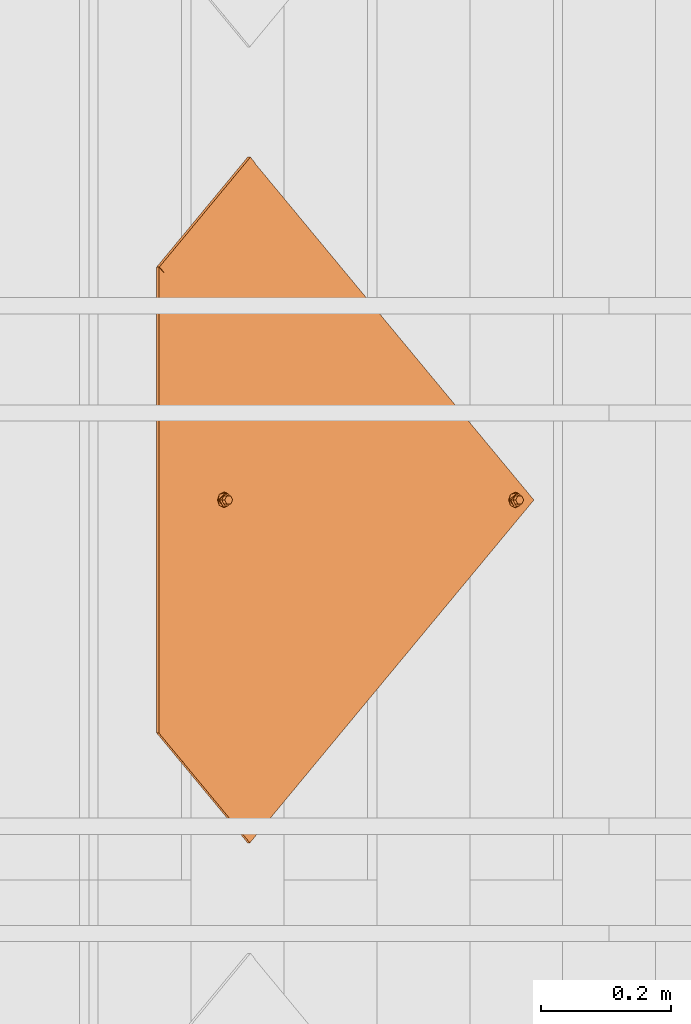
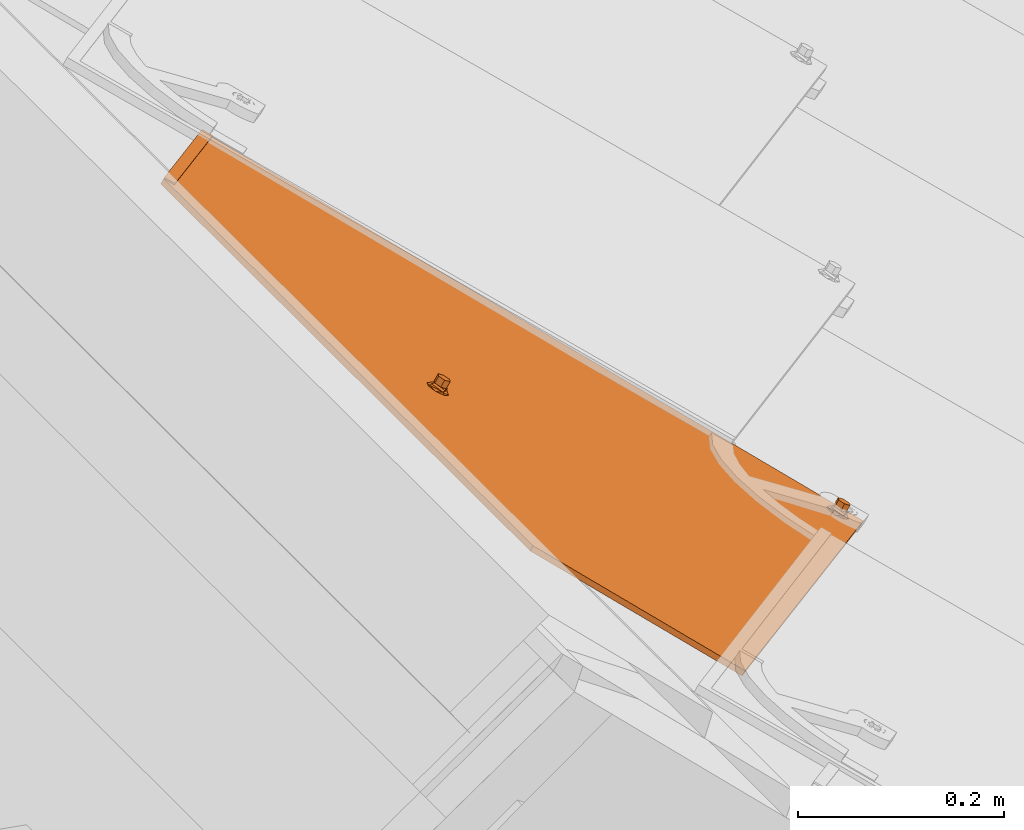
# One storey, part 72 of 151: 1 proxy.
"""IFC2X3 building model written with IfcOpenShell, lengths in millimetres."""

import ifcopenshell
import ifcopenshell.guid

model = None  # the IFC model being written
_history = None  # IfcOwnerHistory: only IFC2X3 demands one
_inside = {}  # id of a spatial element -> (the spatial element, [elements in it])
_under = {}  # id of a project, library or spatial element -> (it, [spatial elements below it])
_declared = {}  # id of a project -> (the project, [libraries it declares])
_typed = {}  # id of a type object -> (the type object, [elements of that type])
_made_of = {}  # id of a material, layer set ... -> (it, [elements and type objects made of it])


def new_model(schema):
    """Start an empty IFC model of exactly this schema.

    Asked for "IFC4X3", IfcOpenShell would pick the latest addendum, in which some entities
    have other attributes; the version numbers below select the first issue.
    IFC2X3 requires an IfcOwnerHistory on every rooted entity: one is made here for all.
    """
    global model, _history
    if schema == "IFC4X3":
        model = ifcopenshell.file(schema_version=(4, 3, 0, 0))
    else:
        model = ifcopenshell.file(schema=schema)
    _inside.clear()
    _under.clear()
    _declared.clear()
    _typed.clear()
    _made_of.clear()
    _history = None
    if model.schema == "IFC2X3":
        org = make("IfcOrganization", Name="unknown")
        user = make(
            "IfcPersonAndOrganization",
            ThePerson=make("IfcPerson", FamilyName="unknown"),
            TheOrganization=org,
        )
        app = make(
            "IfcApplication",
            ApplicationDeveloper=org,
            Version="unknown",
            ApplicationFullName="unknown",
            ApplicationIdentifier="unknown",
        )
        _history = make(
            "IfcOwnerHistory",
            OwningUser=user,
            OwningApplication=app,
            ChangeAction="ADDED",
            CreationDate=0,
        )
    return model


def make(cls, **values):
    """One entity of the class cls with the attributes given. An attribute that is None is left unset."""
    return model.create_entity(
        cls, **{name: value for name, value in values.items() if value is not None}
    )


def entity(cls, *values):
    """Any entity or typed value of the class cls, its attributes in the order of the schema. None: left unset."""
    e = model.create_entity(cls)
    for i, value in enumerate(values):
        if value is not None:
            e[i] = value
    return e


def rooted(cls, **values):
    """An entity with a GlobalId (a new one), such as an element, a storey or a relation."""
    return make(cls, GlobalId=ifcopenshell.guid.new(), OwnerHistory=_history, **values)


def si_unit(unit_type, name, prefix=None):
    """IfcSIUnit, for example si_unit("LENGTHUNIT", "METRE", prefix="MILLI")."""
    return make("IfcSIUnit", UnitType=unit_type, Prefix=prefix, Name=name)


def converted_unit(unit_type, name, factor, base, dimensions=None, offset=None):
    """IfcConversionBasedUnit, such as the inch: factor (a typed value) times the base unit."""
    return make(
        "IfcConversionBasedUnit"
        if offset is None
        else "IfcConversionBasedUnitWithOffset",
        ConversionOffset=offset,
        Dimensions=None
        if dimensions is None
        else entity("IfcDimensionalExponents", *dimensions),
        UnitType=unit_type,
        Name=name,
        ConversionFactor=make(
            "IfcMeasureWithUnit", ValueComponent=factor, UnitComponent=base
        ),
    )


def derived_unit(unit_type, elements):
    """IfcDerivedUnit: a product of units, each with its exponent."""
    return make(
        "IfcDerivedUnit",
        Elements=[
            make("IfcDerivedUnitElement", Unit=unit, Exponent=power)
            for unit, power in elements
        ],
        UnitType=unit_type,
    )


def assignment(units):
    """IfcUnitAssignment: the units of a project."""
    return None if units is None else make("IfcUnitAssignment", Units=units)


def point(xyz):
    """IfcCartesianPoint."""
    return None if xyz is None else make("IfcCartesianPoint", Coordinates=xyz)


def direction(xyz):
    """IfcDirection."""
    return None if xyz is None else make("IfcDirection", DirectionRatios=xyz)


def frame(location, z_axis=None, x_axis=None):
    """IfcAxis2Placement3D, a coordinate frame: its origin and axes. An axis left out is left unset."""
    return make(
        "IfcAxis2Placement3D",
        Location=point(location),
        Axis=direction(z_axis),
        RefDirection=direction(x_axis),
    )


def origin():
    """The frame at (0, 0, 0) with its axes left unset."""
    return frame((0.0, 0.0, 0.0))


def place(relative_to, where):
    """IfcLocalPlacement: puts the frame where relative to a parent placement (None: the world)."""
    return make(
        "IfcLocalPlacement", PlacementRelTo=relative_to, RelativePlacement=where
    )


def context(
    kind, dimensions, precision=None, world=None, true_north=None, identifier=None
):
    """IfcGeometricRepresentationContext, for example the 3D "Model" context."""
    return make(
        "IfcGeometricRepresentationContext",
        ContextIdentifier=identifier,
        ContextType=kind,
        CoordinateSpaceDimension=dimensions,
        Precision=precision,
        WorldCoordinateSystem=world,
        TrueNorth=true_north,
    )


def subcontext(parent, identifier, kind, view, scale=None):
    """IfcGeometricRepresentationSubContext, for example "Body" below "Model"."""
    return make(
        "IfcGeometricRepresentationSubContext",
        ContextIdentifier=identifier,
        ContextType=kind,
        ParentContext=parent,
        TargetScale=scale,
        TargetView=view,
    )


def project(units=None, contexts=None):
    """IfcProject with its units and contexts."""
    return rooted(
        "IfcProject",
        Name="project",
        RepresentationContexts=contexts,
        UnitsInContext=assignment(units),
    )


def spatial(cls, under=None, at=None, **own):
    """A site, building, storey or space (cls), placed at a placement, below another one or the project."""
    s = rooted(cls, ObjectPlacement=at, **own)
    if under is not None:
        _under.setdefault(under.id(), (under, []))[1].append(s)
    return s


def faces_of(points, faces, orient=None, outer=None):
    """IfcFace entities. A face is a list of loops; a loop is a list of indices into points, from 0.

    orient and outer hold one flag for each loop. By default every Orientation is true, the
    first loop of a face is its IfcFaceOuterBound and the others are IfcFaceBound.
    """
    made = []
    for i, loops in enumerate(faces):
        bounds = []
        for j, loop in enumerate(loops):
            is_outer = j == 0 if outer is None else outer[i][j]
            bounds.append(
                make(
                    "IfcFaceOuterBound" if is_outer else "IfcFaceBound",
                    Bound=make("IfcPolyLoop", Polygon=[points[k] for k in loop]),
                    Orientation=True if orient is None else orient[i][j],
                )
            )
        made.append(make("IfcFace", Bounds=bounds))
    return made


def faceted_brep(points, faces, orient=None, outer=None, voids=None):
    """IfcFacetedBrep: a solid bounded by flat faces; with voids (closed shells), ...WithVoids."""
    shared = [point(p) for p in points]
    hull = make("IfcClosedShell", CfsFaces=faces_of(shared, faces, orient, outer))
    if voids is None:
        return make("IfcFacetedBrep", Outer=hull)
    return make(
        "IfcFacetedBrepWithVoids",
        Outer=hull,
        Voids=[
            make(cls, CfsFaces=faces_of(shared, fs, o, b)) for cls, fs, o, b in voids
        ],
    )


def shape(context_of_items, identifier, shape_type, items):
    """IfcShapeRepresentation: the items that make up one representation, for example the "Body"."""
    return make(
        "IfcShapeRepresentation",
        ContextOfItems=context_of_items,
        RepresentationIdentifier=identifier,
        RepresentationType=shape_type,
        Items=items,
    )


def source(mapping_origin, context_of_items, identifier, shape_type, items):
    """IfcRepresentationMap: a shape defined once, which mapped items show again and again."""
    return make(
        "IfcRepresentationMap",
        MappingOrigin=mapping_origin,
        MappedRepresentation=shape(context_of_items, identifier, shape_type, items),
    )


def transform(
    local_origin,
    x_axis=None,
    y_axis=None,
    z_axis=None,
    scale=None,
    scale2=None,
    scale3=None,
    uniform=True,
):
    """IfcCartesianTransformationOperator3D, or its non-uniform kind. x_axis, y_axis, z_axis: its Axis1, 2, 3."""
    if uniform:
        return make(
            "IfcCartesianTransformationOperator3D",
            Axis1=direction(x_axis),
            Axis2=direction(y_axis),
            LocalOrigin=point(local_origin),
            Scale=scale,
            Axis3=direction(z_axis),
        )
    return make(
        "IfcCartesianTransformationOperator3DnonUniform",
        Axis1=direction(x_axis),
        Axis2=direction(y_axis),
        LocalOrigin=point(local_origin),
        Scale=scale,
        Axis3=direction(z_axis),
        Scale2=scale2,
        Scale3=scale3,
    )


def mapped(mapping_source, mapping_target):
    """IfcMappedItem: shows the shape of a source again, moved by a transform."""
    return make(
        "IfcMappedItem", MappingSource=mapping_source, MappingTarget=mapping_target
    )


def material(Name=None, Category=None):
    """IfcMaterial."""
    return make("IfcMaterial", Name=Name, Category=Category)


def material_list(materials):
    """IfcMaterialList."""
    return make("IfcMaterialList", Materials=materials)


def made_of(thing, what):
    """Note that an element or type object is made of a material, layer set ...; save() writes the relation."""
    if what is not None:
        _made_of.setdefault(what.id(), (what, []))[1].append(thing)
    return thing


def type_object(cls, material=None, **own):
    """A type object (cls), such as IfcWallType, which elements share."""
    return made_of(rooted(cls, **own), material)


def type_shapes(of_type, sources):
    """Give a type object the sources (RepresentationMaps) that its elements show as mapped items."""
    of_type.RepresentationMaps = sources


def element(
    cls,
    number,
    at=None,
    inside=None,
    cuts=None,
    type_object=None,
    material=None,
    context=None,
    identifier="Body",
    shape_type=None,
    held_by="IfcProductDefinitionShape",
    body=None,
    shapes=None,
    **own,
):
    """One element of the class cls, such as IfcWall. Its Tag is "e" and its number.

    at: its placement. inside: the storey or other place that contains it. cuts: it is an
    opening in that element (IfcRelVoidsElement). A single representation is given by context,
    identifier, shape_type and body (its items); several are given by shapes. held_by: the class
    of the entity that holds the representations. save() writes the other relations.
    """
    e = rooted(cls, Tag="e%d" % number, ObjectPlacement=at, **own)
    if body is not None:
        shapes = [shape(context, identifier, shape_type, body)]
    if shapes is not None:
        e.Representation = make(held_by, Representations=shapes)
    if inside is not None:
        _inside.setdefault(inside.id(), (inside, []))[1].append(e)
    if cuts is not None:
        rooted(
            "IfcRelVoidsElement", RelatingBuildingElement=cuts, RelatedOpeningElement=e
        )
    if type_object is not None:
        _typed.setdefault(type_object.id(), (type_object, []))[1].append(e)
    return made_of(e, material)


def aggregate(whole, parts):
    """IfcRelAggregates: a whole, such as a stair, and the parts it consists of."""
    return rooted("IfcRelAggregates", RelatingObject=whole, RelatedObjects=parts)


def save(model, path):
    """Write the relations noted so far, then the file.

    IfcRelAggregates (storeys below a building ...), IfcRelContainedInSpatialStructure (elements
    in a storey), IfcRelDefinesByType, IfcRelAssociatesMaterial and IfcRelDeclares: one each for
    every whole, place, type object, material and project.
    """
    for whole, parts in _under.values():
        aggregate(whole, parts)
    for where, things in _inside.values():
        rooted(
            "IfcRelContainedInSpatialStructure",
            RelatedElements=things,
            RelatingStructure=where,
        )
    for kind, things in _typed.values():
        rooted("IfcRelDefinesByType", RelatedObjects=things, RelatingType=kind)
    for what, things in _made_of.values():
        rooted("IfcRelAssociatesMaterial", RelatedObjects=things, RelatingMaterial=what)
    for by, libraries in _declared.values():
        rooted("IfcRelDeclares", RelatingContext=by, RelatedDefinitions=libraries)
    model.write(path)


model = new_model("IFC2X3")

# Units and contexts
model_context = context("Model", 3, precision=0.01, world=origin(), true_north=direction((6.12303176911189e-17, 1.0)))
body_context = subcontext(model_context, "Body", "Model", "MODEL_VIEW")
ifc_project = project(units=[si_unit("LENGTHUNIT", "METRE", prefix="MILLI"), si_unit("AREAUNIT", "SQUARE_METRE"), si_unit("VOLUMEUNIT", "CUBIC_METRE"), converted_unit("PLANEANGLEUNIT", "DEGREE", entity("IfcRatioMeasure", 0.0174532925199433), si_unit("PLANEANGLEUNIT", "RADIAN"), dimensions=[0, 0, 0, 0, 0, 0, 0]), si_unit("MASSUNIT", "GRAM", prefix="KILO"), derived_unit("MASSDENSITYUNIT", [(si_unit("MASSUNIT", "GRAM", prefix="KILO"), 1), (si_unit("LENGTHUNIT", "METRE"), -3)]), si_unit("TIMEUNIT", "SECOND"), si_unit("FREQUENCYUNIT", "HERTZ"), si_unit("THERMODYNAMICTEMPERATUREUNIT", "DEGREE_CELSIUS"), derived_unit("THERMALTRANSMITTANCEUNIT", [(si_unit("MASSUNIT", "GRAM", prefix="KILO"), 1), (si_unit("THERMODYNAMICTEMPERATUREUNIT", "KELVIN"), -1), (si_unit("TIMEUNIT", "SECOND"), -3)]), derived_unit("VOLUMETRICFLOWRATEUNIT", [(si_unit("LENGTHUNIT", "METRE"), 3), (si_unit("TIMEUNIT", "SECOND"), -1)]), si_unit("ELECTRICCURRENTUNIT", "AMPERE"), si_unit("ELECTRICVOLTAGEUNIT", "VOLT"), si_unit("POWERUNIT", "WATT"), si_unit("FORCEUNIT", "NEWTON", prefix="KILO"), si_unit("ILLUMINANCEUNIT", "LUX"), si_unit("LUMINOUSFLUXUNIT", "LUMEN"), si_unit("LUMINOUSINTENSITYUNIT", "CANDELA"), derived_unit("USERDEFINED", [(si_unit("MASSUNIT", "GRAM", prefix="KILO"), -1), (si_unit("LENGTHUNIT", "METRE"), -2), (si_unit("TIMEUNIT", "SECOND"), 3), (si_unit("LUMINOUSFLUXUNIT", "LUMEN"), 1)]), derived_unit("LINEARVELOCITYUNIT", [(si_unit("LENGTHUNIT", "METRE"), 1), (si_unit("TIMEUNIT", "SECOND"), -1)]), si_unit("PRESSUREUNIT", "PASCAL"), derived_unit("USERDEFINED", [(si_unit("LENGTHUNIT", "METRE"), -2), (si_unit("MASSUNIT", "GRAM", prefix="KILO"), 1), (si_unit("TIMEUNIT", "SECOND"), -2)])], contexts=[model_context])

# Site, building, storey
site_placement = place(None, origin())
site = spatial("IfcSite", under=ifc_project, at=site_placement, Name="Default", CompositionType="ELEMENT")
building_placement = place(site_placement, origin())
building = spatial("IfcBuilding", under=site, at=building_placement, CompositionType="ELEMENT")
storey_placement = place(building_placement, origin())
storey = spatial("IfcBuildingStorey", under=building, at=storey_placement, Name="Level 1", CompositionType="ELEMENT", Elevation=0.0)

# Proxy
ifc_material_1 = material(Name="Rubber - Sunstyle - Black")
ifc_material_2 = material(Name="Glass - Sunstyle - Tainted Black")
ifc_material_list_1 = material_list([ifc_material_1, ifc_material_2])
ifc_material_list_2 = material_list([ifc_material_1, ifc_material_2])
building_element_proxy_type = type_object("IfcBuildingElementProxyType", Name="Shingle Top - Black", PredefinedType="NOTDEFINED", material=ifc_material_list_2)
shared_shape = source(origin(), body_context, "Body", "Brep", [
    faceted_brep([(-518.396436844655, -96.9865733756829, 16.4476231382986), (-518.396436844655, -96.9614556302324, 17.9474128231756), (-526.881123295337, -88.4767691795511, 17.8053154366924), (-526.881123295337, -88.5018869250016, 16.3055257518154), (-376.996804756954, 61.3404039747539, 13.7960402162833), (-368.512118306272, 52.8557175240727, 13.9381376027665), (-376.996804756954, 61.3655217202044, 15.2958299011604), (-368.512118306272, 52.8808352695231, 15.4379272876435)], [[[0, 1, 2, 3]], [[0, 3, 4, 5]], [[3, 2, 6, 4]], [[2, 1, 7, 6]], [[1, 0, 5, 7]], [[5, 4, 6, 7]]]),
    faceted_brep([(0.166366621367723, -33.6374645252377, -4.47296585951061), (-5.6078362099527, -36.9707346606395, -4.4171418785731), (-5.60783620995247, -36.6024255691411, 17.5747274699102), (0.166366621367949, -33.2691554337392, 17.5189034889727), (-5.60783620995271, -43.6372749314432, -4.30549391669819), (-5.60783620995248, -43.2689658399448, 17.6863754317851), (0.166366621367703, -46.9705450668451, -4.24966993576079), (0.166366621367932, -46.6022359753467, 17.7421994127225), (5.94056945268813, -43.6372749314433, -4.30549391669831), (5.94056945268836, -43.2689658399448, 17.686375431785), (5.94056945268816, -36.9707346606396, -4.41714187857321), (5.94056945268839, -36.6024255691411, 17.5747274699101), (-8.43733754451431, -48.5381935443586, 17.774621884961), (0.16636662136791, -52.1014648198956, 17.8342978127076), (-12.0011084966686, -39.9356957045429, 17.6305514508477), (-8.43733754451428, -31.3331978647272, 17.4864810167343), (0.166366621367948, -27.7699265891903, 17.4268050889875), (8.77007078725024, -31.3331978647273, 17.4864810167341), (12.3338417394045, -39.935695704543, 17.6305514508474), (8.77007078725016, -48.5381935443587, 17.7746218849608), (-11.1578780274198, -37.6406185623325, 19.9433933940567), (-9.59010793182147, -39.8646808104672, 21.8708760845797), (0.166366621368, -32.5516055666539, 22.5035764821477), (0.166366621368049, -31.3111079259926, 21.9232298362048), (0.166366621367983, -29.1535570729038, 20.9138547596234), (0.166366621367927, -51.5454208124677, 19.1093557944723), (0.166366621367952, -50.6018442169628, 21.273060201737), (0.166366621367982, -47.1524685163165, 22.7481046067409), (0.166366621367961, -28.2829626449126, 18.7197675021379), (-6.15687907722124, -43.5022527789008, 22.6869725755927), (-6.15687907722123, -36.2018213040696, 22.5647085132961), (11.4906112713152, -42.1520387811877, 20.0189484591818), (10.0152467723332, -40.9390872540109, 21.7920079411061), (6.48961231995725, -36.2018213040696, 22.564708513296), (6.48961231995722, -43.5022527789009, 22.6869725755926), (-6.15687907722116, -43.3682243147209, 30.68986075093), (0.166366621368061, -47.0184400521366, 30.7509927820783), (0.166366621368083, -39.7180085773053, 30.6287287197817), (-6.15687907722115, -36.0677928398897, 30.5675966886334), (6.48961231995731, -43.368224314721, 30.6898607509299), (6.48961231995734, -36.0677928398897, 30.5675966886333), (0.166366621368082, -32.417577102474, 30.5064646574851), (0.166366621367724, -40.3040047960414, -4.36131789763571)], [[[0, 1, 2, 3]], [[1, 4, 5, 2]], [[4, 6, 7, 5]], [[6, 8, 9, 7]], [[8, 10, 11, 9]], [[10, 0, 3, 11]], [[12, 7, 13]], [[7, 12, 5]], [[14, 5, 12]], [[5, 14, 2]], [[15, 2, 14]], [[3, 2, 15]], [[15, 16, 3]], [[16, 17, 3]], [[11, 3, 17]], [[11, 17, 18]], [[9, 11, 18]], [[18, 19, 9]], [[7, 9, 19]], [[19, 13, 7]], [[20, 14, 12]], [[21, 22, 23, 24]], [[24, 20, 21]], [[25, 20, 12]], [[26, 27, 21]], [[15, 14, 20]], [[12, 13, 25]], [[20, 28, 15]], [[28, 20, 24]], [[21, 27, 29]], [[21, 29, 30]], [[26, 21, 20]], [[20, 25, 26]], [[15, 28, 16]], [[21, 30, 22]], [[31, 18, 17]], [[28, 31, 17]], [[32, 27, 26]], [[26, 31, 32]], [[26, 25, 31]], [[25, 19, 31]], [[17, 16, 28]], [[31, 19, 18]], [[24, 31, 28]], [[33, 34, 32]], [[23, 22, 33]], [[24, 32, 31]], [[27, 32, 34]], [[32, 23, 33]], [[19, 25, 13]], [[32, 24, 23]], [[35, 36, 37]], [[37, 38, 35]], [[36, 39, 37]], [[40, 37, 39]], [[37, 40, 41]], [[37, 41, 38]], [[42, 6, 4]], [[4, 1, 42]], [[1, 0, 42]], [[42, 8, 6]], [[0, 10, 42]], [[8, 42, 10]], [[22, 30, 38, 41]], [[30, 29, 35, 38]], [[29, 27, 36, 35]], [[27, 34, 39, 36]], [[34, 33, 40, 39]], [[33, 22, 41, 40]]]),
    faceted_brep([(0.0, -573.927138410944, 4.00636906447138), (-5.77420283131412, -577.260408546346, 4.0621930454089), (-5.77420283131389, -576.892099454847, 26.0540623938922), (0.0, -573.558829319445, 25.9982384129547), (-5.77420283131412, -583.926948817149, 4.1738410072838), (-5.7742028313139, -583.558639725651, 26.1657103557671), (0.0, -587.260218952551, 4.2296649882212), (0.0, -586.891909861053, 26.2215343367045), (5.77420283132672, -583.926948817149, 4.17384100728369), (5.77420283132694, -583.558639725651, 26.165710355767), (5.77420283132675, -577.260408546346, 4.06219304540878), (5.77420283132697, -576.892099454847, 26.0540623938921), (-8.60370416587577, -588.827867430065, 26.253956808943), (0.0, -592.391138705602, 26.3136327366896), (-12.1674751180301, -580.225369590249, 26.1098863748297), (-8.60370416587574, -571.622871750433, 25.9658159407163), (0.0, -568.059600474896, 25.9061400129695), (8.60370416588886, -571.622871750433, 25.9658159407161), (12.1674751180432, -580.225369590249, 26.1098863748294), (8.60370416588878, -588.827867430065, 26.2539568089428), (-11.3242446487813, -577.930292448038, 28.4227283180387), (-9.75647455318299, -580.154354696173, 30.3502110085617), (0.0, -572.84127945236, 30.9829114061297), (0.0, -571.600781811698, 30.4025647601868), (0.0, -569.44323095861, 29.3931896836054), (0.0, -591.835094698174, 27.5886907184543), (0.0, -590.891518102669, 29.752395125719), (0.0, -587.442142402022, 31.227439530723), (0.0, -568.572636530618, 27.1991024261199), (-6.32324569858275, -583.791926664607, 31.1663074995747), (-6.32324569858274, -576.491495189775, 31.0440434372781), (11.3242446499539, -582.441712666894, 28.4982833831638), (9.84888015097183, -581.228761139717, 30.2713428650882), (6.32324569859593, -576.491495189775, 31.044043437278), (6.32324569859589, -583.791926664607, 31.1663074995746), (-6.32324569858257, -583.657898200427, 39.169195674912), (0.0, -587.308113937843, 39.2303277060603), (0.0, -580.007682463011, 39.1080636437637), (-6.32324569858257, -576.357466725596, 39.0469316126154), (6.32324569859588, -583.657898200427, 39.1691956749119), (6.32324569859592, -576.357466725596, 39.0469316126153), (0.0, -572.70725098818, 38.9857995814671), (0.0, -580.593678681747, 4.11801702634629)], [[[0, 1, 2, 3]], [[1, 4, 5, 2]], [[4, 6, 7, 5]], [[6, 8, 9, 7]], [[8, 10, 11, 9]], [[10, 0, 3, 11]], [[12, 7, 13]], [[7, 12, 5]], [[14, 5, 12]], [[5, 14, 2]], [[15, 2, 14]], [[3, 2, 15]], [[15, 16, 3]], [[16, 17, 3]], [[11, 3, 17]], [[11, 17, 18]], [[9, 11, 18]], [[18, 19, 9]], [[7, 9, 19]], [[19, 13, 7]], [[20, 14, 12]], [[21, 22, 23, 24]], [[24, 20, 21]], [[25, 20, 12]], [[26, 27, 21]], [[15, 14, 20]], [[12, 13, 25]], [[20, 28, 15]], [[28, 20, 24]], [[21, 27, 29]], [[21, 29, 30]], [[26, 21, 20]], [[20, 25, 26]], [[15, 28, 16]], [[21, 30, 22]], [[31, 18, 17]], [[28, 31, 17]], [[32, 27, 26]], [[26, 31, 32]], [[26, 25, 31]], [[25, 19, 31]], [[17, 16, 28]], [[31, 19, 18]], [[24, 31, 28]], [[33, 34, 32]], [[23, 22, 33]], [[24, 32, 31]], [[27, 32, 34]], [[32, 23, 33]], [[19, 25, 13]], [[32, 24, 23]], [[35, 36, 37]], [[37, 38, 35]], [[36, 39, 37]], [[40, 37, 39]], [[37, 40, 41]], [[37, 41, 38]], [[42, 6, 4]], [[4, 1, 42]], [[1, 0, 42]], [[42, 8, 6]], [[0, 10, 42]], [[8, 42, 10]], [[22, 30, 38, 41]], [[30, 29, 35, 38]], [[29, 27, 36, 35]], [[27, 34, 39, 36]], [[34, 33, 40, 39]], [[33, 22, 41, 40]]]),
    faceted_brep([(518.482751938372, -96.8754983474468, 17.9260478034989), (526.967438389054, -88.3908118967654, 17.7839504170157), (526.967438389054, -88.3656941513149, 19.2837401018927), (518.482751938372, -96.8503806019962, 19.4258374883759), (349.749400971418, 71.8105397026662, 15.1009763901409), (358.234087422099, 80.2952261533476, 14.9588790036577), (358.234087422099, 80.3203438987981, 16.4586686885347), (349.749400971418, 71.8356574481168, 16.6007660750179)], [[[0, 1, 2, 3]], [[1, 0, 4, 5]], [[2, 1, 5, 6]], [[3, 2, 6, 7]], [[0, 3, 7, 4]], [[4, 7, 6, 5]]]),
    faceted_brep([(358.234087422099, 80.2952261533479, 14.9588790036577), (6.94661128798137, -35.8890860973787, 16.9046771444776), (7.74581466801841, -37.8182632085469, 16.9369860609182), (5.67526230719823, -34.2324641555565, 16.8769328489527), (8.01840805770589, -39.8885252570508, 16.9716577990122), (7.74581466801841, -41.9587873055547, 17.0063295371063), (6.94661128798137, -43.8879644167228, 17.0386384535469), (526.967438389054, -88.3908118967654, 17.7839504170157), (4.01840805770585, -32.9612934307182, 16.855643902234), (2.08896041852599, -32.1622021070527, 16.8422611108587), (0.0184080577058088, -31.8896469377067, 16.8376964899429), (-358.233442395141, 80.2952261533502, 14.9588790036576), (-2.05214430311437, -32.1622021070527, 16.8422611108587), (-3.98159194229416, -32.9612934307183, 16.855643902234), (-5.63844619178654, -34.2324641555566, 16.8769328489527), (-6.90979517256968, -35.8890860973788, 16.9046771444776), (-7.70899855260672, -37.8182632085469, 16.9369860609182), (-7.98159194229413, -39.8885252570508, 16.9716577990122), (-7.70899855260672, -41.9587873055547, 17.0063295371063), (-6.90979517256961, -43.8879644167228, 17.0386384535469), (-526.966793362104, -88.390811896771, 17.7839504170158), (-5.63844619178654, -45.544586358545, 17.0663827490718), (-5.6568542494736, -574.226981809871, 25.9204974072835), (-6.92820323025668, -575.883603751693, 25.9482417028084), (-7.72740661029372, -577.812780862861, 25.980550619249), (-8.0, -579.883042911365, 26.015222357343), (-7.72740661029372, -581.953304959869, 26.049894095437), (0.000322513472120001, -615.210165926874, 26.6068637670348), (7.72740661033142, -581.953304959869, 26.049894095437), (6.92820323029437, -583.882482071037, 26.0822030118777), (5.65685424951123, -585.53910401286, 26.1099473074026), (4.0, -586.810274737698, 26.1312362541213), (2.070552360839, -587.609366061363, 26.1446190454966), (0.0, -587.881921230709, 26.1491836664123), (-2.0705523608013, -587.609366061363, 26.1446190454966), (-4.0, -586.810274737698, 26.1312362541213), (-5.65685424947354, -585.53910401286, 26.1099473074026), (-6.92820323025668, -583.882482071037, 26.0822030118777), (-4.0, -572.955811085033, 25.8992084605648), (-3.98159194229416, -46.8157570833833, 17.0876716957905), (-2.07055236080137, -572.156719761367, 25.8858256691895), (-2.05214430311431, -47.614848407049, 17.1010544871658), (0.0, -571.884164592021, 25.8812610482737), (0.0184080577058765, -47.8874035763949, 17.1056191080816), (2.07055236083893, -572.156719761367, 25.8858256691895), (2.08896041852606, -47.6148484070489, 17.1010544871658), (4.0, -572.955811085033, 25.8992084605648), (4.01840805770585, -46.8157570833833, 17.0876716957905), (5.65685424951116, -574.226981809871, 25.9204974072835), (5.67526230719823, -45.544586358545, 17.0663827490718), (6.92820323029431, -575.883603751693, 25.9482417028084), (7.72740661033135, -577.812780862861, 25.980550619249), (8.0, -579.883042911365, 26.015222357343), (-358.233442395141, 80.1947551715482, 8.9597202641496), (-6.90979517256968, -35.9895570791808, 10.9055184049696), (-7.70899855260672, -37.9187341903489, 10.9378273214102), (-5.63844619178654, -34.3329351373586, 10.8777741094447), (-7.98159194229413, -39.9889962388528, 10.9724990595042), (-7.70899855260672, -42.0592582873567, 11.0071707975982), (-6.90979517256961, -43.9884353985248, 11.0394797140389), (-526.966793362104, -88.4912828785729, 11.7847916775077), (-3.98159194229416, -33.0617644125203, 10.856485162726), (-2.05214430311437, -32.2626730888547, 10.8431023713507), (0.0184080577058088, -31.9901179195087, 10.8385377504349), (358.234087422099, 80.1947551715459, 8.95972026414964), (2.08896041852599, -32.2626730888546, 10.8431023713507), (4.01840805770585, -33.0617644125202, 10.856485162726), (5.67526230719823, -34.3329351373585, 10.8777741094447), (6.94661128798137, -35.9895570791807, 10.9055184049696), (7.74581466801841, -37.9187341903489, 10.9378273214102), (8.01840805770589, -39.9889962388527, 10.9724990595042), (7.74581466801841, -42.0592582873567, 11.0071707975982), (6.94661128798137, -43.9884353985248, 11.0394797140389), (526.967438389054, -88.4912828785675, 11.7847916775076), (5.67526230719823, -45.645057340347, 11.0672240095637), (5.65685424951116, -574.327452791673, 19.9213386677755), (6.92820323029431, -575.984074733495, 19.9490829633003), (7.72740661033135, -577.913251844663, 19.981391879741), (8.0, -579.983513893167, 20.016063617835), (7.72740661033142, -582.053775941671, 20.050735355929), (0.000322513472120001, -615.310636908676, 20.6077050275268), (-7.72740661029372, -582.053775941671, 20.050735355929), (-6.92820323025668, -583.982953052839, 20.0830442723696), (-5.65685424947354, -585.639574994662, 20.1107885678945), (-4.0, -586.9107457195, 20.1320775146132), (-2.0705523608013, -587.709837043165, 20.1454603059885), (0.0, -587.982392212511, 20.1500249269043), (2.070552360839, -587.709837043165, 20.1454603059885), (4.0, -586.9107457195, 20.1320775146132), (5.65685424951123, -585.639574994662, 20.1107885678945), (6.92820323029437, -583.982953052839, 20.0830442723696), (4.01840805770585, -46.9162280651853, 11.0885129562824), (4.0, -573.056282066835, 19.9000497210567), (2.08896041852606, -47.7153193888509, 11.1018957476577), (2.07055236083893, -572.257190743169, 19.8866669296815), (0.0184080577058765, -47.9878745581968, 11.1064603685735), (0.0, -571.984635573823, 19.8821023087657), (-2.05214430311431, -47.7153193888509, 11.1018957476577), (-2.07055236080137, -572.257190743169, 19.8866669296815), (-3.98159194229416, -46.9162280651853, 11.0885129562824), (-4.0, -573.056282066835, 19.9000497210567), (-5.63844619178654, -45.645057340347, 11.0672240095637), (-5.6568542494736, -574.327452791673, 19.9213386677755), (-6.92820323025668, -575.984074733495, 19.9490829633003), (-7.72740661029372, -577.913251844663, 19.981391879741), (-8.0, -579.983513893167, 20.016063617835)], [[[0, 1, 2]], [[1, 0, 3]], [[0, 2, 4]], [[4, 5, 0]], [[5, 6, 0]], [[7, 0, 6]], [[8, 3, 0]], [[9, 8, 0]], [[10, 9, 0]], [[0, 11, 10]], [[12, 10, 11]], [[13, 12, 11]], [[14, 13, 11]], [[11, 15, 14]], [[15, 11, 16]], [[16, 11, 17]], [[11, 18, 17]], [[18, 11, 19]], [[11, 20, 19]], [[19, 20, 21]], [[20, 22, 21]], [[23, 22, 20]], [[24, 23, 20]], [[24, 20, 25]], [[26, 25, 20]], [[27, 26, 20]], [[7, 28, 27]], [[29, 27, 28]], [[27, 29, 30]], [[30, 31, 27]], [[31, 32, 27]], [[27, 32, 33]], [[27, 33, 34]], [[34, 35, 27]], [[27, 35, 36]], [[36, 37, 27]], [[37, 26, 27]], [[38, 21, 22]], [[38, 39, 21]], [[38, 40, 39]], [[40, 41, 39]], [[40, 42, 41]], [[41, 42, 43]], [[44, 43, 42]], [[44, 45, 43]], [[45, 44, 46]], [[46, 47, 45]], [[46, 48, 47]], [[48, 49, 47]], [[50, 7, 48]], [[48, 7, 49]], [[7, 50, 51]], [[7, 51, 52]], [[52, 28, 7]], [[7, 6, 49]], [[53, 54, 55]], [[54, 53, 56]], [[53, 55, 57]], [[58, 53, 57]], [[59, 53, 58]], [[60, 53, 59]], [[61, 56, 53]], [[62, 61, 53]], [[53, 63, 62]], [[63, 53, 64]], [[65, 63, 64]], [[66, 65, 64]], [[64, 67, 66]], [[67, 64, 68]], [[68, 64, 69]], [[70, 69, 64]], [[71, 70, 64]], [[72, 71, 64]], [[72, 64, 73]], [[72, 73, 74]], [[74, 73, 75]], [[73, 76, 75]], [[76, 73, 77]], [[77, 73, 78]], [[79, 78, 73]], [[79, 73, 80]], [[60, 81, 80]], [[80, 81, 82]], [[80, 82, 83]], [[83, 84, 80]], [[84, 85, 80]], [[85, 86, 80]], [[80, 86, 87]], [[80, 87, 88]], [[80, 88, 89]], [[79, 80, 90]], [[80, 89, 90]], [[75, 91, 74]], [[75, 92, 91]], [[92, 93, 91]], [[93, 92, 94]], [[93, 94, 95]], [[96, 95, 94]], [[97, 95, 96]], [[96, 98, 97]], [[98, 99, 97]], [[98, 100, 99]], [[100, 101, 99]], [[100, 102, 101]], [[60, 101, 102]], [[103, 60, 102]], [[103, 104, 60]], [[104, 105, 60]], [[105, 81, 60]], [[59, 101, 60]], [[27, 20, 60, 80]], [[7, 27, 80, 73]], [[0, 7, 73, 64]], [[25, 105, 104, 24]], [[24, 104, 103, 23]], [[38, 22, 102, 100]], [[102, 22, 23, 103]], [[40, 38, 100, 98]], [[40, 98, 96, 42]], [[42, 96, 94, 44]], [[44, 94, 92, 46]], [[50, 48, 75, 76]], [[75, 48, 46, 92]], [[51, 50, 76, 77]], [[51, 77, 78, 52]], [[52, 78, 79, 28]], [[28, 79, 90, 29]], [[31, 30, 89, 88]], [[29, 90, 89, 30]], [[87, 32, 31, 88]], [[32, 87, 86, 33]], [[34, 33, 86, 85]], [[34, 85, 84, 35]], [[37, 36, 83, 82]], [[35, 84, 83, 36]], [[37, 82, 81, 26]], [[26, 81, 105, 25]], [[17, 57, 55, 16]], [[16, 55, 54, 15]], [[13, 14, 56, 61]], [[56, 14, 15, 54]], [[12, 13, 61, 62]], [[12, 62, 63, 10]], [[10, 63, 65, 9]], [[9, 65, 66, 8]], [[1, 3, 67, 68]], [[67, 3, 8, 66]], [[2, 1, 68, 69]], [[2, 69, 70, 4]], [[4, 70, 71, 5]], [[5, 71, 72, 6]], [[47, 49, 74, 91]], [[74, 49, 6, 72]], [[45, 47, 91, 93]], [[45, 93, 95, 43]], [[43, 95, 97, 41]], [[41, 97, 99, 39]], [[19, 21, 101, 59]], [[101, 21, 39, 99]], [[18, 19, 59, 58]], [[18, 58, 57, 17]], [[11, 0, 64, 53]], [[20, 11, 53, 60]]]),
])
type_shapes(building_element_proxy_type, [shared_shape])
proxy_placement = place(storey_placement, frame((1429.25691597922, 2039.44978891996, 2714.99202663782), z_axis=(0.573576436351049, 0.0, 0.81915204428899), x_axis=(0.0, 1.0, 0.0)))
element("IfcBuildingElementProxy", 1, at=proxy_placement, inside=storey, type_object=building_element_proxy_type, material=ifc_material_list_1, Name="Roofing_Panels_SunStyle_Tile_Shingle-Top:Shingle Top - Black", ObjectType="Roofing_Panels_SunStyle_Tile_Shingle-Top:Shingle Top - Black", context=body_context, shape_type="MappedRepresentation", body=[
    mapped(shared_shape, transform((0.0, 0.0, 0.0), scale=1.0)),
])

save(model, "model.ifc")
